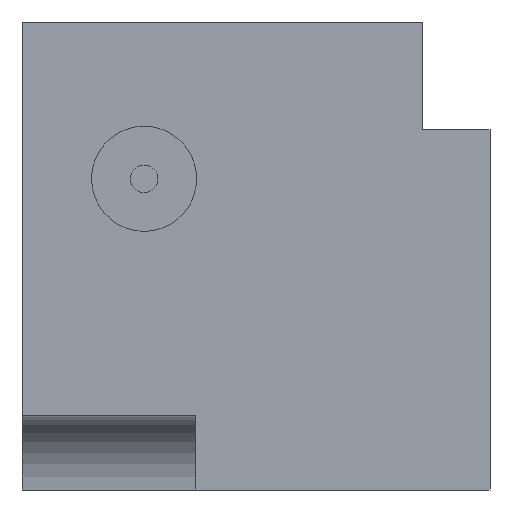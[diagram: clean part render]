
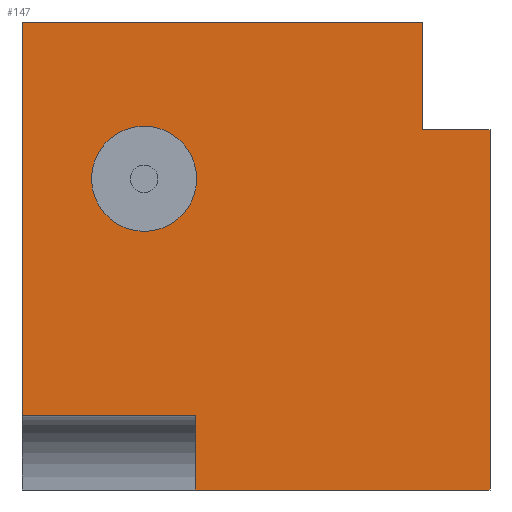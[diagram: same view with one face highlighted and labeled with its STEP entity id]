
A CAD part, left-side view. The second image highlights one B-rep face of the part: STEP entity #147.
In plain terms, the highlighted planar face has unit normal (-1, 0, 0).
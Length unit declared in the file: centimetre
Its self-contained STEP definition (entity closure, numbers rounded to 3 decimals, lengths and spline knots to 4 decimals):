
#33 = DIRECTION ( 'NONE',  ( 0., 0., -1. ) ) ;
#69 = VECTOR ( 'NONE', #615, 100. ) ;
#86 = EDGE_CURVE ( 'NONE', #1162, #1244, #779, .T. ) ;
#102 = VERTEX_POINT ( 'NONE', #589 ) ;
#106 = PLANE ( 'NONE',  #716 ) ;
#132 = VERTEX_POINT ( 'NONE', #1058 ) ;
#135 = VECTOR ( 'NONE', #954, 100. ) ;
#147 = ADVANCED_FACE ( 'NONE', ( #1078, #1391 ), #106, .F. ) ;
#182 = ORIENTED_EDGE ( 'NONE', *, *, #1206, .T. ) ;
#198 = EDGE_CURVE ( 'NONE', #102, #1363, #1308, .T. ) ;
#219 = EDGE_LOOP ( 'NONE', ( #1154, #1226 ) ) ;
#220 = EDGE_CURVE ( 'NONE', #718, #132, #1317, .T. ) ;
#224 = DIRECTION ( 'NONE',  ( 0., 0., -1. ) ) ;
#240 = ORIENTED_EDGE ( 'NONE', *, *, #1328, .F. ) ;
#267 = VECTOR ( 'NONE', #224, 100. ) ;
#283 = ORIENTED_EDGE ( 'NONE', *, *, #1404, .T. ) ;
#294 = CARTESIAN_POINT ( 'NONE',  ( 0., 143.3596, 1000. ) ) ;
#328 = CARTESIAN_POINT ( 'NONE',  ( 0., 0., 1000. ) ) ;
#341 = LINE ( 'NONE', #1237, #634 ) ;
#362 = CARTESIAN_POINT ( 'NONE',  ( 0., 1000., 159.3554 ) ) ;
#423 = LINE ( 'NONE', #1392, #69 ) ;
#436 = DIRECTION ( 'NONE',  ( 1., 0., 0. ) ) ;
#443 = EDGE_CURVE ( 'NONE', #1244, #1162, #1201, .T. ) ;
#493 = CARTESIAN_POINT ( 'NONE',  ( 0., 1000., 0. ) ) ;
#505 = ORIENTED_EDGE ( 'NONE', *, *, #198, .F. ) ;
#517 = CARTESIAN_POINT ( 'NONE',  ( 0., 739.1535, 777.2712 ) ) ;
#536 = EDGE_CURVE ( 'NONE', #579, #1275, #766, .T. ) ;
#551 = DIRECTION ( 'NONE',  ( 0., -1., 0. ) ) ;
#571 = VECTOR ( 'NONE', #551, 100. ) ;
#579 = VERTEX_POINT ( 'NONE', #778 ) ;
#589 = CARTESIAN_POINT ( 'NONE',  ( 0., 629.7711, 0. ) ) ;
#593 = VERTEX_POINT ( 'NONE', #362 ) ;
#594 = AXIS2_PLACEMENT_3D ( 'NONE', #657, #1409, #1089 ) ;
#602 = EDGE_CURVE ( 'NONE', #579, #593, #341, .T. ) ;
#615 = DIRECTION ( 'NONE',  ( 0., -1., 0. ) ) ;
#634 = VECTOR ( 'NONE', #33, 100. ) ;
#657 = CARTESIAN_POINT ( 'NONE',  ( 0., 739.1535, 664.9477 ) ) ;
#716 = AXIS2_PLACEMENT_3D ( 'NONE', #1410, #436, #845 ) ;
#718 = VERTEX_POINT ( 'NONE', #1021 ) ;
#766 = LINE ( 'NONE', #1196, #571 ) ;
#770 = ORIENTED_EDGE ( 'NONE', *, *, #220, .F. ) ;
#778 = CARTESIAN_POINT ( 'NONE',  ( 0., 1000., 1000. ) ) ;
#779 = CIRCLE ( 'NONE', #1119, 112.3235 ) ;
#798 = ORIENTED_EDGE ( 'NONE', *, *, #536, .F. ) ;
#803 = CARTESIAN_POINT ( 'NONE',  ( 0., 143.3596, 769.4551 ) ) ;
#829 = CARTESIAN_POINT ( 'NONE',  ( 0., 739.1535, 552.6242 ) ) ;
#845 = DIRECTION ( 'NONE',  ( 0., 0., -1. ) ) ;
#924 = DIRECTION ( 'NONE',  ( 0., -1., 0. ) ) ;
#925 = EDGE_LOOP ( 'NONE', ( #240, #970, #798, #1033, #283, #505, #182, #770 ) ) ;
#937 = VECTOR ( 'NONE', #986, 100. ) ;
#954 = DIRECTION ( 'NONE',  ( 0., 0., 1. ) ) ;
#970 = ORIENTED_EDGE ( 'NONE', *, *, #1312, .T. ) ;
#975 = LINE ( 'NONE', #1085, #1108 ) ;
#981 = CARTESIAN_POINT ( 'NONE',  ( 0., 629.7711, 159.3554 ) ) ;
#986 = DIRECTION ( 'NONE',  ( 0., 0., 1. ) ) ;
#1021 = CARTESIAN_POINT ( 'NONE',  ( 0., 0., 769.4551 ) ) ;
#1030 = DIRECTION ( 'NONE',  ( -1., 0., 0. ) ) ;
#1032 = LINE ( 'NONE', #493, #1342 ) ;
#1033 = ORIENTED_EDGE ( 'NONE', *, *, #602, .T. ) ;
#1058 = CARTESIAN_POINT ( 'NONE',  ( 0., 0., 0. ) ) ;
#1078 = FACE_BOUND ( 'NONE', #219, .T. ) ;
#1085 = CARTESIAN_POINT ( 'NONE',  ( 0., 629.7711, 159.3554 ) ) ;
#1089 = DIRECTION ( 'NONE',  ( 0., 0., 1. ) ) ;
#1108 = VECTOR ( 'NONE', #1194, 100. ) ;
#1119 = AXIS2_PLACEMENT_3D ( 'NONE', #1121, #1030, #1239 ) ;
#1121 = CARTESIAN_POINT ( 'NONE',  ( 0., 739.1535, 664.9477 ) ) ;
#1153 = CARTESIAN_POINT ( 'NONE',  ( 0., 143.3596, 769.4551 ) ) ;
#1154 = ORIENTED_EDGE ( 'NONE', *, *, #443, .F. ) ;
#1162 = VERTEX_POINT ( 'NONE', #829 ) ;
#1174 = VERTEX_POINT ( 'NONE', #803 ) ;
#1194 = DIRECTION ( 'NONE',  ( 0., -1., 0. ) ) ;
#1196 = CARTESIAN_POINT ( 'NONE',  ( 0., 1000., 1000. ) ) ;
#1201 = CIRCLE ( 'NONE', #594, 112.3235 ) ;
#1206 = EDGE_CURVE ( 'NONE', #102, #132, #1032, .T. ) ;
#1212 = CARTESIAN_POINT ( 'NONE',  ( 0., 629.7711, 1000. ) ) ;
#1226 = ORIENTED_EDGE ( 'NONE', *, *, #86, .F. ) ;
#1237 = CARTESIAN_POINT ( 'NONE',  ( 0., 1000., 1000. ) ) ;
#1239 = DIRECTION ( 'NONE',  ( 0., 0., 1. ) ) ;
#1244 = VERTEX_POINT ( 'NONE', #517 ) ;
#1275 = VERTEX_POINT ( 'NONE', #294 ) ;
#1308 = LINE ( 'NONE', #1212, #937 ) ;
#1312 = EDGE_CURVE ( 'NONE', #1174, #1275, #1378, .T. ) ;
#1317 = LINE ( 'NONE', #328, #267 ) ;
#1328 = EDGE_CURVE ( 'NONE', #1174, #718, #423, .T. ) ;
#1342 = VECTOR ( 'NONE', #924, 100. ) ;
#1363 = VERTEX_POINT ( 'NONE', #981 ) ;
#1378 = LINE ( 'NONE', #1153, #135 ) ;
#1391 = FACE_OUTER_BOUND ( 'NONE', #925, .T. ) ;
#1392 = CARTESIAN_POINT ( 'NONE',  ( 0., 143.3596, 769.4551 ) ) ;
#1404 = EDGE_CURVE ( 'NONE', #593, #1363, #975, .T. ) ;
#1409 = DIRECTION ( 'NONE',  ( -1., 0., 0. ) ) ;
#1410 = CARTESIAN_POINT ( 'NONE',  ( 0., 1000., 1000. ) ) ;
